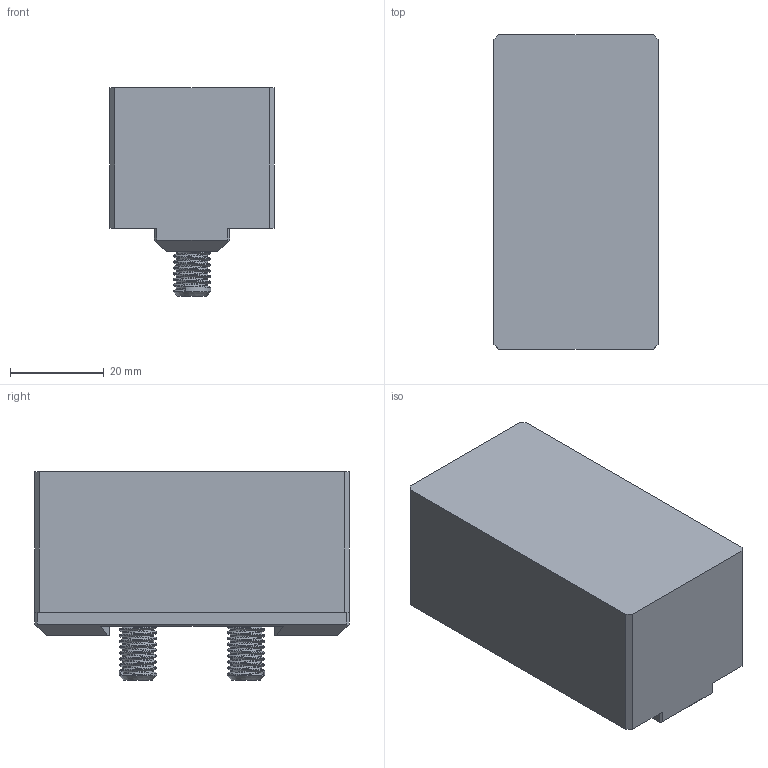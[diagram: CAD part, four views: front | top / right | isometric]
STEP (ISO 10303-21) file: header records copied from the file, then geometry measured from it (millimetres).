
FILE_DESCRIPTION(/* description */ (''),/* implementation_level */ '2;1');
FILE_NAME(/* name */ '',/* time_stamp */ '2024-02-23T15:28:57+08:00',/* author */ (''),/* organization */ (''),/* preprocessor_version */ 'ST-DEVELOPER v11',/* originating_system */ 'SIEMENS PLM Software NX 7.0',/* authorisation */ '');
FILE_SCHEMA (('CONFIG_CONTROL_DESIGN'));
Length unit declared in the file: millimetre
Products named in the file (1): AdmiDC7E54c9
Bounding box: 35 x 67 x 44.5 mm (x, y, z)
Volume: 72703.7 mm3; surface area: 14588.1 mm2
Topology: 3 solids, 3 shells, 109 faces, 288 edges, 190 vertices
Faces by surface type: plane 65, cylinder 30, torus 4, bspline 4, extrusion 4, cone 2
Full cylindrical faces by diameter (mm): 8 x18, 13 x2
Entity records: 7568 total; most frequent: CARTESIAN_POINT 5314, ORIENTED_EDGE 444, DIRECTION 426, EDGE_CURVE 222, VECTOR 166, LINE 162, VERTEX_POINT 152, AXIS2_PLACEMENT_3D 130
